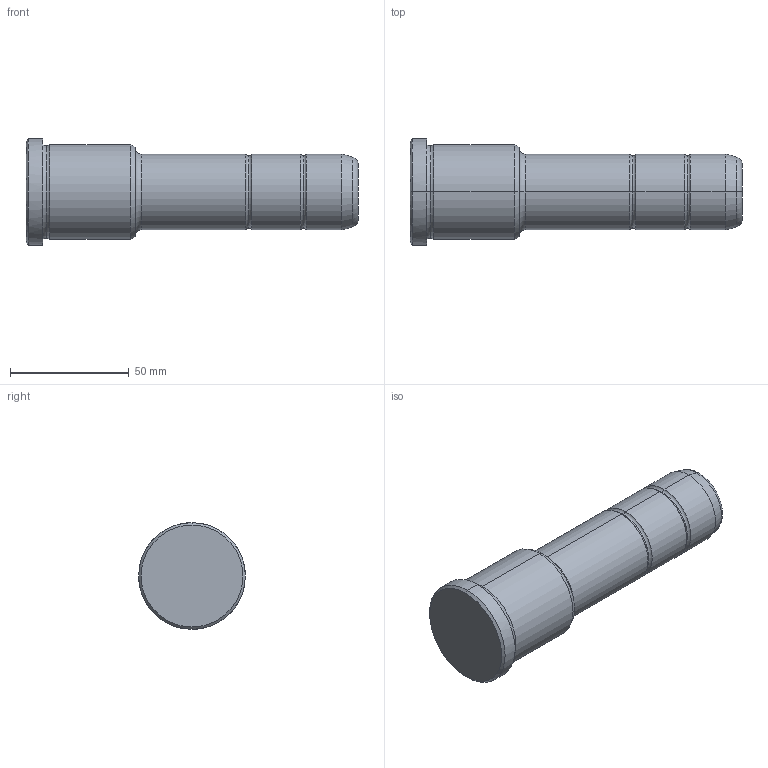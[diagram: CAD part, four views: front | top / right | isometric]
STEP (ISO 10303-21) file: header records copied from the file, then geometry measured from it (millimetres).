
FILE_DESCRIPTION(('CATIA V5 STEP Exchange'),'2;1');
FILE_NAME('C:\Users\Utente\Desktop\IO LAVORO\3D X SITO CF\X SITO\PLASTICA\351\351-32X46X140.stp','2021-09-07T12:41:09+00:00',('none'),('none'),'CATIA Version 5 Release 20 GA (IN-10)','CATIA V5 STEP AP203','none');
FILE_SCHEMA(('CONFIG_CONTROL_DESIGN'));
Length unit declared in the file: millimetre
Products named in the file (1): 351-32X46X140
Bounding box: 140 x 45 x 45 mm (x, y, z)
Volume: 134535.9 mm3; surface area: 18091.9 mm2
Topology: 1 solids, 1 shells, 36 faces, 102 edges, 70 vertices
Faces by surface type: torus 16, cylinder 10, cone 6, plane 4
Entity records: 1292 total; most frequent: CARTESIAN_POINT 321, ORIENTED_EDGE 204, DIRECTION 166, AXIS2_PLACEMENT_3D 115, EDGE_CURVE 102, CIRCLE 78, VERTEX_POINT 70, EDGE_LOOP 38
